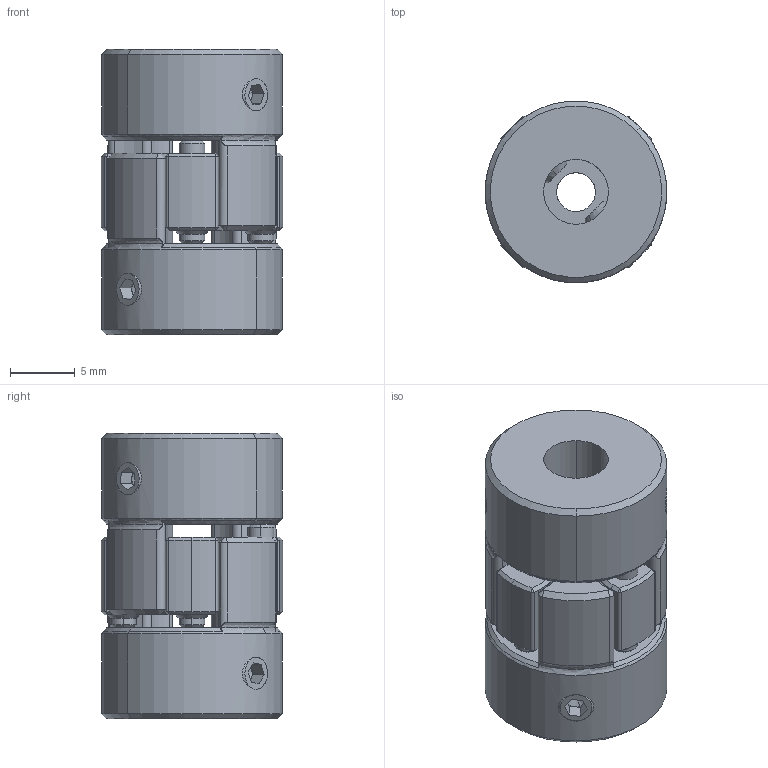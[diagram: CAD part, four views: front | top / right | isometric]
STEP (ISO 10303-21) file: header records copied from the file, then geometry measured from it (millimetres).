
FILE_DESCRIPTION (( 'STEP AP203' ), '1' );
FILE_NAME ('LF-D-D14L22-3-5.STEP', '2021-10-26T05:37:53', ( '' ), ( '' ), 'SwSTEP 2.0', 'SolidWorks 2018', '' );
FILE_SCHEMA (( 'CONFIG_CONTROL_DESIGN' ));
Length unit declared in the file: millimetre
Products named in the file (1): LF-D-D14L22-3-5
Bounding box: 14 x 14 x 22 mm (x, y, z)
Volume: 2772.9 mm3; surface area: 2144.1 mm2
Topology: 1 solids, 1 shells, 353 faces, 891 edges, 516 vertices
Faces by surface type: cone 164, cylinder 115, plane 66, torus 8
Entity records: 10881 total; most frequent: CARTESIAN_POINT 2254, DIRECTION 1935, ORIENTED_EDGE 1734, EDGE_CURVE 867, AXIS2_PLACEMENT_3D 780, VERTEX_POINT 516, CIRCLE 426, EDGE_LOOP 383
